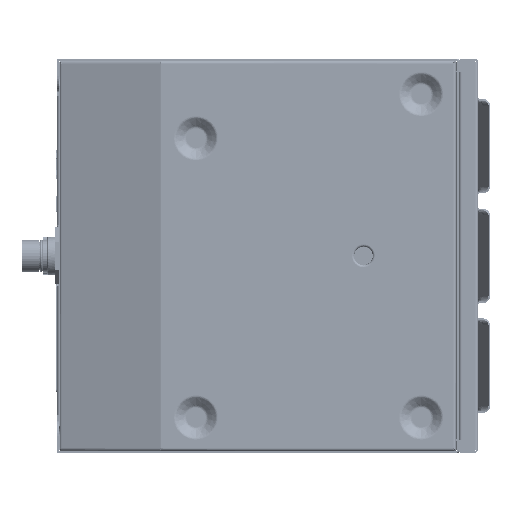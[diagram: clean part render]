
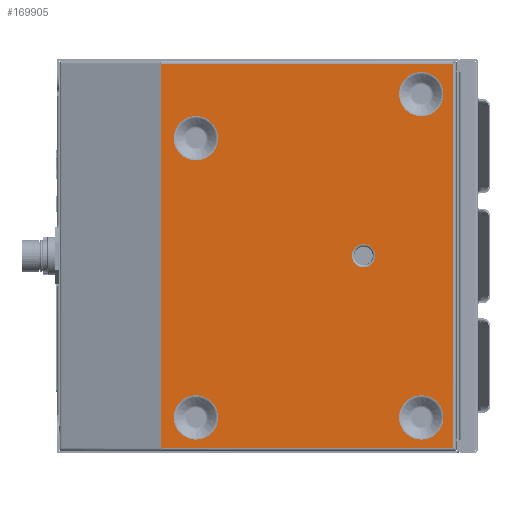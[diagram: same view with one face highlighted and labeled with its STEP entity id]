
A CAD part, front view. The second image highlights one B-rep face of the part: STEP entity #169905.
In plain terms, the highlighted planar face has unit normal (0, -1, 0).
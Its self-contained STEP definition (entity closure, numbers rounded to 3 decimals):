
#3791 = ORIENTED_EDGE ( 'NONE', *, *, #145940, .T. ) ;
#11910 = FACE_BOUND ( 'NONE', #418898, .T. ) ;
#13109 = VECTOR ( 'NONE', #118807, 1000. ) ;
#16543 = CARTESIAN_POINT ( 'NONE',  ( -44.45, -1.143, 76.2 ) ) ;
#16704 = ORIENTED_EDGE ( 'NONE', *, *, #347509, .F. ) ;
#23326 = DIRECTION ( 'NONE',  ( 0., 0., -1. ) ) ;
#26238 = VERTEX_POINT ( 'NONE', #141577 ) ;
#35346 = CIRCLE ( 'NONE', #248585, 14.374 ) ;
#38151 = ORIENTED_EDGE ( 'NONE', *, *, #218478, .F. ) ;
#38164 = EDGE_CURVE ( 'NONE', #142991, #312371, #35346, .T. ) ;
#43490 = AXIS2_PLACEMENT_3D ( 'NONE', #348938, #132196, #385288 ) ;
#44099 = LINE ( 'NONE', #293695, #406329 ) ;
#44308 = CIRCLE ( 'NONE', #43490, 14.374 ) ;
#44535 = EDGE_LOOP ( 'NONE', ( #442638, #38151 ) ) ;
#45964 = FACE_BOUND ( 'NONE', #288773, .T. ) ;
#47462 = DIRECTION ( 'NONE',  ( 0., 0., -1. ) ) ;
#52293 = ORIENTED_EDGE ( 'NONE', *, *, #87418, .T. ) ;
#52948 = DIRECTION ( 'NONE',  ( 0., 0., -1. ) ) ;
#54313 = ORIENTED_EDGE ( 'NONE', *, *, #273318, .F. ) ;
#58128 = AXIS2_PLACEMENT_3D ( 'NONE', #334063, #117319, #370489 ) ;
#60902 = VERTEX_POINT ( 'NONE', #409833 ) ;
#67800 = AXIS2_PLACEMENT_3D ( 'NONE', #127980, #381098, #164374 ) ;
#69065 = CARTESIAN_POINT ( 'NONE',  ( -44.45, -1.143, 76.2 ) ) ;
#70703 = LINE ( 'NONE', #185898, #444220 ) ;
#72223 = CARTESIAN_POINT ( 'NONE',  ( -66.886, -1.143, -124.563 ) ) ;
#79672 = EDGE_CURVE ( 'NONE', #60902, #416234, #324580, .T. ) ;
#81068 = AXIS2_PLACEMENT_3D ( 'NONE', #191007, #443994, #227398 ) ;
#82614 = VERTEX_POINT ( 'NONE', #72223 ) ;
#86916 = AXIS2_PLACEMENT_3D ( 'NONE', #456560, #240072, #23326 ) ;
#87418 = EDGE_CURVE ( 'NONE', #416234, #60902, #381469, .T. ) ;
#89462 = CARTESIAN_POINT ( 'NONE',  ( 64.143, -1.143, -7.493 ) ) ;
#93069 = EDGE_CURVE ( 'NONE', #149660, #409707, #416414, .T. ) ;
#96814 = FACE_OUTER_BOUND ( 'NONE', #349175, .T. ) ;
#102062 = ORIENTED_EDGE ( 'NONE', *, *, #79672, .T. ) ;
#104502 = VERTEX_POINT ( 'NONE', #213033 ) ;
#105433 = DIRECTION ( 'NONE',  ( 0., 0., -1. ) ) ;
#106408 = CIRCLE ( 'NONE', #417271, 14.374 ) ;
#108129 = FACE_BOUND ( 'NONE', #216802, .T. ) ;
#117319 = DIRECTION ( 'NONE',  ( 0., 1., 0. ) ) ;
#118807 = DIRECTION ( 'NONE',  ( 1., 0., 0. ) ) ;
#121618 = CARTESIAN_POINT ( 'NONE',  ( -44.45, -1.143, 61.826 ) ) ;
#127980 = CARTESIAN_POINT ( 'NONE',  ( -44.45, -1.143, -104.775 ) ) ;
#132196 = DIRECTION ( 'NONE',  ( 0., -1., 0. ) ) ;
#136428 = VERTEX_POINT ( 'NONE', #449610 ) ;
#136718 = ORIENTED_EDGE ( 'NONE', *, *, #314105, .F. ) ;
#141577 = CARTESIAN_POINT ( 'NONE',  ( 101.6, -1.143, 119.149 ) ) ;
#142991 = VERTEX_POINT ( 'NONE', #380107 ) ;
#145940 = EDGE_CURVE ( 'NONE', #82614, #293518, #44099, .T. ) ;
#149660 = VERTEX_POINT ( 'NONE', #386965 ) ;
#157340 = DIRECTION ( 'NONE',  ( 0., -1., 0. ) ) ;
#162719 = CIRCLE ( 'NONE', #86916, 14.374 ) ;
#163567 = CARTESIAN_POINT ( 'NONE',  ( 101.6, -1.143, -104.775 ) ) ;
#164374 = DIRECTION ( 'NONE',  ( 0., 0., -1. ) ) ;
#166504 = LINE ( 'NONE', #229406, #409777 ) ;
#169905 = ADVANCED_FACE ( 'NONE', ( #45964, #193035, #11910, #108129, #385511, #96814 ), #195560, .F. ) ;
#180441 = AXIS2_PLACEMENT_3D ( 'NONE', #16543, #269711, #52948 ) ;
#185898 = CARTESIAN_POINT ( 'NONE',  ( -66.886, -1.143, 124.563 ) ) ;
#188522 = VERTEX_POINT ( 'NONE', #269682 ) ;
#191007 = CARTESIAN_POINT ( 'NONE',  ( 64.143, -1.143, 0. ) ) ;
#193035 = FACE_BOUND ( 'NONE', #44535, .T. ) ;
#195560 = PLANE ( 'NONE',  #281835 ) ;
#199928 = DIRECTION ( 'NONE',  ( 0., 0., -1. ) ) ;
#201083 = CARTESIAN_POINT ( 'NONE',  ( -44.45, -1.143, -104.775 ) ) ;
#205602 = LINE ( 'NONE', #297654, #13109 ) ;
#213033 = CARTESIAN_POINT ( 'NONE',  ( -66.886, -1.143, 124.563 ) ) ;
#216802 = EDGE_LOOP ( 'NONE', ( #428158, #253579 ) ) ;
#218478 = EDGE_CURVE ( 'NONE', #312371, #142991, #317536, .T. ) ;
#221330 = CARTESIAN_POINT ( 'NONE',  ( 101.6, -1.143, 90.401 ) ) ;
#222283 = DIRECTION ( 'NONE',  ( 0., 0., -1. ) ) ;
#227398 = DIRECTION ( 'NONE',  ( 0., 0., 1. ) ) ;
#229406 = CARTESIAN_POINT ( 'NONE',  ( 122.206, -1.143, 124.563 ) ) ;
#230152 = ORIENTED_EDGE ( 'NONE', *, *, #329873, .T. ) ;
#231996 = CARTESIAN_POINT ( 'NONE',  ( -67., -1.143, 124.563 ) ) ;
#237469 = DIRECTION ( 'NONE',  ( 0., 0., -1. ) ) ;
#240072 = DIRECTION ( 'NONE',  ( 0., -1., 0. ) ) ;
#241366 = EDGE_CURVE ( 'NONE', #136428, #293518, #166504, .T. ) ;
#247345 = VERTEX_POINT ( 'NONE', #221330 ) ;
#248585 = AXIS2_PLACEMENT_3D ( 'NONE', #163567, #416551, #199928 ) ;
#253579 = ORIENTED_EDGE ( 'NONE', *, *, #411595, .F. ) ;
#257290 = DIRECTION ( 'NONE',  ( 1., 0., 0. ) ) ;
#268407 = DIRECTION ( 'NONE',  ( 0., 0., 1. ) ) ;
#269682 = CARTESIAN_POINT ( 'NONE',  ( -44.45, -1.143, 90.574 ) ) ;
#269711 = DIRECTION ( 'NONE',  ( 0., -1., 0. ) ) ;
#273318 = EDGE_CURVE ( 'NONE', #188522, #353287, #282623, .T. ) ;
#281835 = AXIS2_PLACEMENT_3D ( 'NONE', #231996, #375995, #268407 ) ;
#282623 = CIRCLE ( 'NONE', #180441, 14.374 ) ;
#288039 = ORIENTED_EDGE ( 'NONE', *, *, #93069, .F. ) ;
#288773 = EDGE_LOOP ( 'NONE', ( #102062, #52293 ) ) ;
#290998 = CIRCLE ( 'NONE', #67800, 14.374 ) ;
#293518 = VERTEX_POINT ( 'NONE', #395115 ) ;
#293695 = CARTESIAN_POINT ( 'NONE',  ( -67., -1.143, -124.563 ) ) ;
#297654 = CARTESIAN_POINT ( 'NONE',  ( -67., -1.143, 124.563 ) ) ;
#312371 = VERTEX_POINT ( 'NONE', #368349 ) ;
#314105 = EDGE_CURVE ( 'NONE', #104502, #136428, #205602, .T. ) ;
#314340 = ORIENTED_EDGE ( 'NONE', *, *, #241366, .F. ) ;
#317536 = CIRCLE ( 'NONE', #343201, 14.374 ) ;
#322178 = DIRECTION ( 'NONE',  ( 0., -1., 0. ) ) ;
#324580 = CIRCLE ( 'NONE', #81068, 7.493 ) ;
#329873 = EDGE_CURVE ( 'NONE', #104502, #82614, #70703, .T. ) ;
#334063 = CARTESIAN_POINT ( 'NONE',  ( 64.143, -1.143, 0. ) ) ;
#343201 = AXIS2_PLACEMENT_3D ( 'NONE', #374116, #157340, #410373 ) ;
#347061 = AXIS2_PLACEMENT_3D ( 'NONE', #201083, #453962, #237469 ) ;
#347509 = EDGE_CURVE ( 'NONE', #353287, #188522, #106408, .T. ) ;
#348938 = CARTESIAN_POINT ( 'NONE',  ( 101.6, -1.143, 104.775 ) ) ;
#349175 = EDGE_LOOP ( 'NONE', ( #3791, #314340, #136718, #230152 ) ) ;
#353287 = VERTEX_POINT ( 'NONE', #121618 ) ;
#354054 = ORIENTED_EDGE ( 'NONE', *, *, #380690, .F. ) ;
#365433 = EDGE_CURVE ( 'NONE', #247345, #26238, #44308, .T. ) ;
#368349 = CARTESIAN_POINT ( 'NONE',  ( 101.6, -1.143, -90.401 ) ) ;
#370489 = DIRECTION ( 'NONE',  ( 0., 0., 1. ) ) ;
#372343 = EDGE_LOOP ( 'NONE', ( #16704, #54313 ) ) ;
#374116 = CARTESIAN_POINT ( 'NONE',  ( 101.6, -1.143, -104.775 ) ) ;
#375995 = DIRECTION ( 'NONE',  ( 0., 1., 0. ) ) ;
#380107 = CARTESIAN_POINT ( 'NONE',  ( 101.6, -1.143, -119.149 ) ) ;
#380690 = EDGE_CURVE ( 'NONE', #409707, #149660, #290998, .T. ) ;
#381098 = DIRECTION ( 'NONE',  ( 0., -1., 0. ) ) ;
#381469 = CIRCLE ( 'NONE', #58128, 7.493 ) ;
#385288 = DIRECTION ( 'NONE',  ( 0., 0., -1. ) ) ;
#385511 = FACE_BOUND ( 'NONE', #372343, .T. ) ;
#386965 = CARTESIAN_POINT ( 'NONE',  ( -44.45, -1.143, -119.149 ) ) ;
#395115 = CARTESIAN_POINT ( 'NONE',  ( 122.206, -1.143, -124.563 ) ) ;
#406329 = VECTOR ( 'NONE', #257290, 1000. ) ;
#409707 = VERTEX_POINT ( 'NONE', #417448 ) ;
#409777 = VECTOR ( 'NONE', #47462, 1000. ) ;
#409833 = CARTESIAN_POINT ( 'NONE',  ( 64.143, -1.143, 7.493 ) ) ;
#410373 = DIRECTION ( 'NONE',  ( 0., 0., -1. ) ) ;
#411595 = EDGE_CURVE ( 'NONE', #26238, #247345, #162719, .T. ) ;
#416234 = VERTEX_POINT ( 'NONE', #89462 ) ;
#416414 = CIRCLE ( 'NONE', #347061, 14.374 ) ;
#416551 = DIRECTION ( 'NONE',  ( 0., -1., 0. ) ) ;
#417271 = AXIS2_PLACEMENT_3D ( 'NONE', #69065, #322178, #105433 ) ;
#417448 = CARTESIAN_POINT ( 'NONE',  ( -44.45, -1.143, -90.401 ) ) ;
#418898 = EDGE_LOOP ( 'NONE', ( #288039, #354054 ) ) ;
#428158 = ORIENTED_EDGE ( 'NONE', *, *, #365433, .F. ) ;
#442638 = ORIENTED_EDGE ( 'NONE', *, *, #38164, .F. ) ;
#443994 = DIRECTION ( 'NONE',  ( 0., 1., 0. ) ) ;
#444220 = VECTOR ( 'NONE', #222283, 1000. ) ;
#449610 = CARTESIAN_POINT ( 'NONE',  ( 122.206, -1.143, 124.563 ) ) ;
#453962 = DIRECTION ( 'NONE',  ( 0., -1., 0. ) ) ;
#456560 = CARTESIAN_POINT ( 'NONE',  ( 101.6, -1.143, 104.775 ) ) ;
